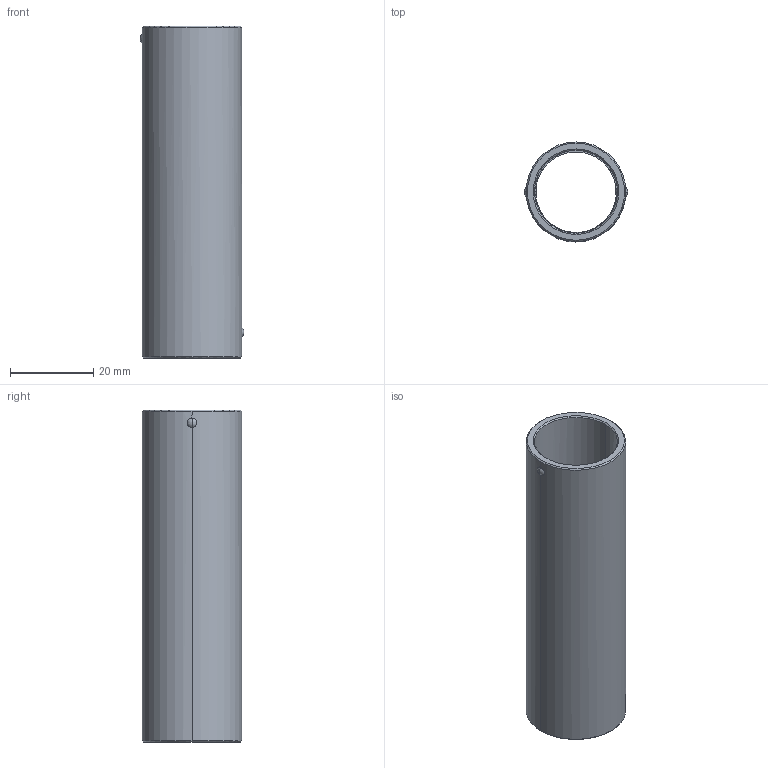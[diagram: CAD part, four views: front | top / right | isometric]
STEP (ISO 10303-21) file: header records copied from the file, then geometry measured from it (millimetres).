
FILE_DESCRIPTION(('CATIA V5 STEP Exchange'),'2;1');
FILE_NAME('C:\Users\Utente\Desktop\IO LAVORO\3D X SITO CF\X SITO\730\730-19x80.stp','2021-01-07T16:16:45+00:00',('none'),('none'),'CATIA Version 5 Release 20 GA (IN-10)','CATIA V5 STEP AP203','none');
FILE_SCHEMA(('CONFIG_CONTROL_DESIGN'));
Length unit declared in the file: millimetre
Products named in the file (1): 730-19x80
Bounding box: 25 x 24 x 80 mm (x, y, z)
Volume: 10550.5 mm3; surface area: 11506.6 mm2
Topology: 1 solids, 1 shells, 44 faces, 120 edges, 76 vertices
Faces by surface type: cylinder 18, cone 10, plane 8, sphere 8
Entity records: 1743 total; most frequent: CARTESIAN_POINT 680, ORIENTED_EDGE 240, DIRECTION 159, EDGE_CURVE 120, AXIS2_PLACEMENT_3D 78, VERTEX_POINT 76, B_SPLINE_CURVE_WITH_KNOTS 49, EDGE_LOOP 48
